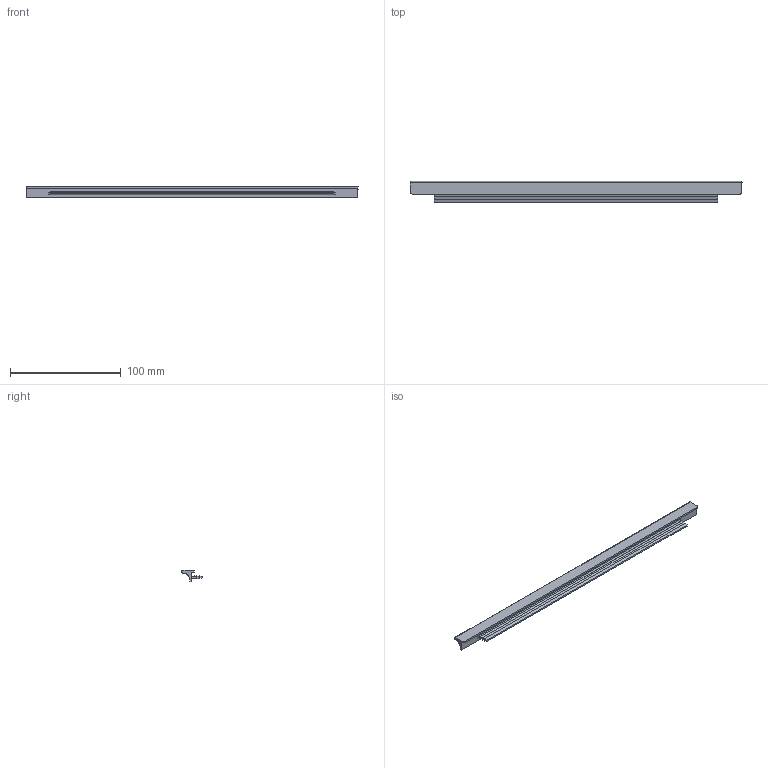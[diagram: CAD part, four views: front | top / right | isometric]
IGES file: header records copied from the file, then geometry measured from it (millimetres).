
Start section: C
Global section: file name: 8251.igs; native system: By Siemens PLM Incorporated; preprocessor: XPlus GENERIC/IGES 16.0.42; author: Author; organization: Title; date: 20231114.145839; units: millimetre
Bounding box: 300 x 19 x 10.1 mm (x, y, z)
Surface area: 18115.8 mm2 (no closed solid volume)
Topology: 0 solids, 0 shells, 32 faces, 172 edges, 172 vertices
Faces by surface type: bspline 32
